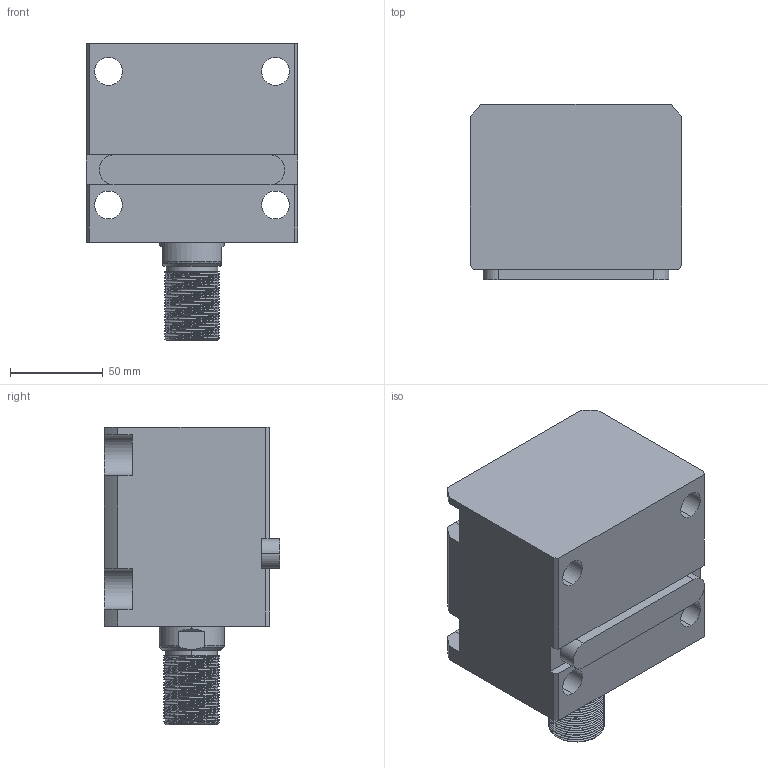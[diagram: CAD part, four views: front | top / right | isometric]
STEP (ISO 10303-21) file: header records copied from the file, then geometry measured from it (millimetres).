
FILE_DESCRIPTION (( 'STEP AP214' ), '1' );
FILE_NAME ('chtb-la63x40w_asm.STEP', '2018-05-17T03:00:31', ( 'Windows' ), ( 'Microsoft' ), 'SwSTEP 2.0', 'SolidWorks 2015', '' );
FILE_SCHEMA (( 'AUTOMOTIVE_DESIGN' ));
Length unit declared in the file: millimetre
Products named in the file (5): CHTB-LA63X40NBT; CHTB-LA63PJ; CHTB63X40WHSG; CHTB-63QG; chtb-la63x40w_asm
Assembly tree (4 placements, depth 2):
  chtb-la63x40w_asm
    CHTB-63QG
    CHTB63X40WHSG
    CHTB-LA63PJ
    CHTB-LA63X40NBT
Bounding box: 114 x 94.5 x 160 mm (x, y, z)
Volume: 958829.5 mm3; surface area: 150128.5 mm2
Topology: 4 solids, 4 shells, 228 faces, 670 edges, 457 vertices
Faces by surface type: cylinder 147, plane 48, bspline 14, cone 13, torus 6
Entity records: 22769 total; most frequent: CARTESIAN_POINT 17126, ORIENTED_EDGE 1332, DIRECTION 940, EDGE_CURVE 666, VERTEX_POINT 457, AXIS2_PLACEMENT_3D 350, EDGE_LOOP 253, LINE 240
